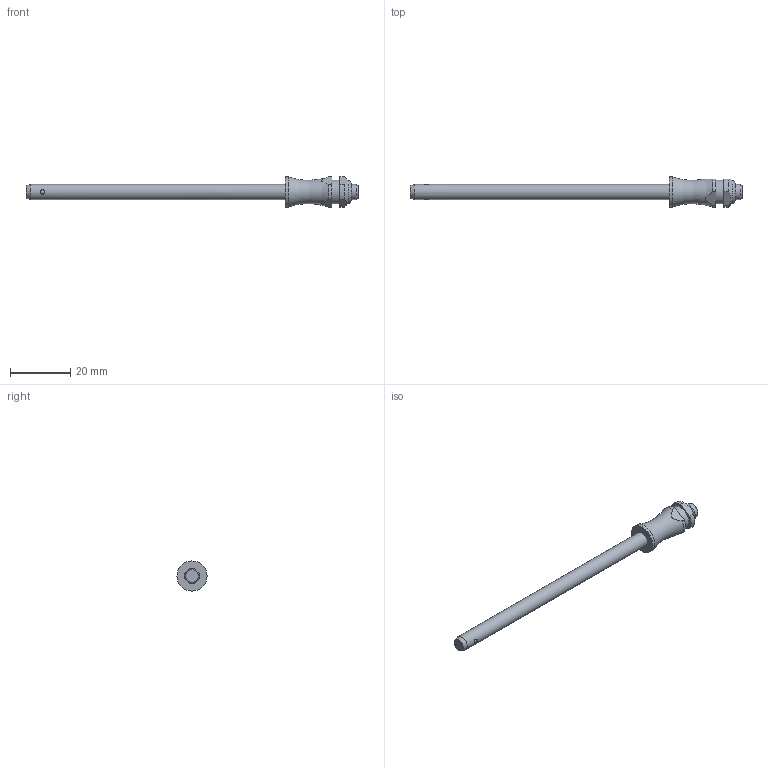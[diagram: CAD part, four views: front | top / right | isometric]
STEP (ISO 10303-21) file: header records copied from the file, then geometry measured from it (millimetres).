
FILE_DESCRIPTION( ( 'STEP AP203' ), '1' );
FILE_NAME( 'C:/Temp/Ganter_Step_05_03_2020/data/3_1/gn113_3/Stainless Steel-Ball lock pin GN 113.3-5-80 (activated).stp', '2020-03-12T08:18:14', ( 'License CC BY-ND 4.0' ), ( 'CADENAS' ), ' ', 'PARTsolutions', ' ' );
FILE_SCHEMA( ( 'CONFIG_CONTROL_DESIGN' ) );
Length unit declared in the file: millimetre
Products named in the file (1): _Stainless Steel-Ball lock pin GN 113.3-5-80 (activated)
Bounding box: 110.15 x 10 x 10 mm (x, y, z)
Volume: 2981.9 mm3; surface area: 2146.1 mm2
Topology: 1 solids, 1 shells, 31 faces, 73 edges, 46 vertices
Faces by surface type: plane 12, cylinder 12, cone 3, torus 2, sphere 2
Full cylindrical faces by diameter (mm): 1.5 x2, 5 x2, 7.9 x1, 10 x1
Entity records: 954 total; most frequent: CARTESIAN_POINT 290, DIRECTION 134, ORIENTED_EDGE 104, AXIS2_PLACEMENT_3D 58, EDGE_CURVE 52, EDGE_LOOP 48, VERTEX_POINT 40, FACE_OUTER_BOUND 39
